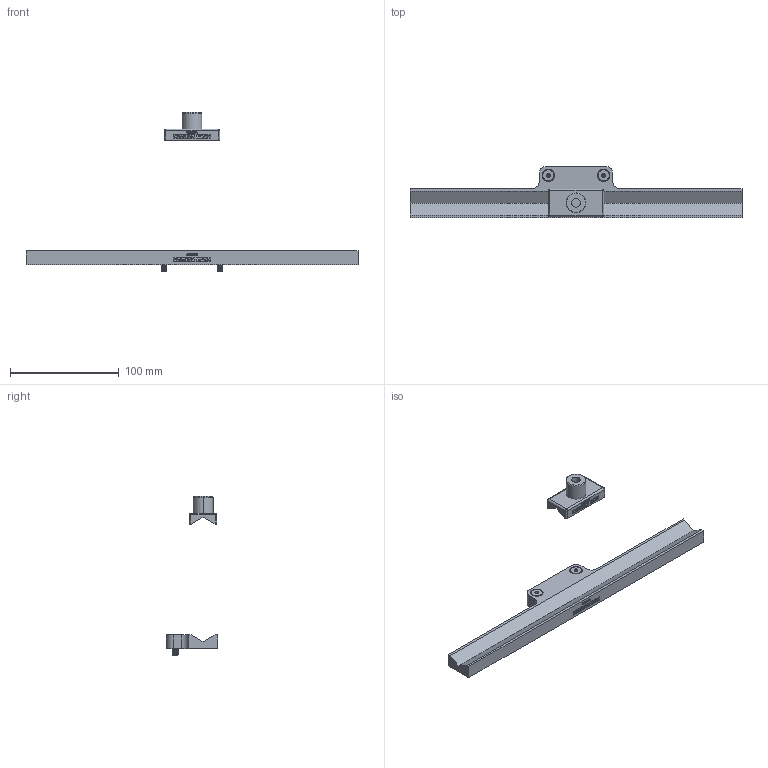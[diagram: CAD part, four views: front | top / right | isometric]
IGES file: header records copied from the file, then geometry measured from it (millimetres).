
Global section: file name: No Iges File Name specified; native system: Autodesk Inventor 2010; preprocessor: AutoDesk Inventor Iges Exporter R2010; author: mlampen; date: 20170419.153547; units: inch
Bounding box: 304.8 x 46.99 x 146.05 mm (x, y, z)
Volume: 112133.2 mm3; surface area: 35335.2 mm2
Topology: 4 solids, 4 shells, 1752 faces, 4562 edges, 2922 vertices
Faces by surface type: plane 1310, cylinder 196, cone 172, revolution 56, bspline 10, torus 4, sphere 4
